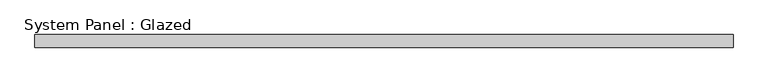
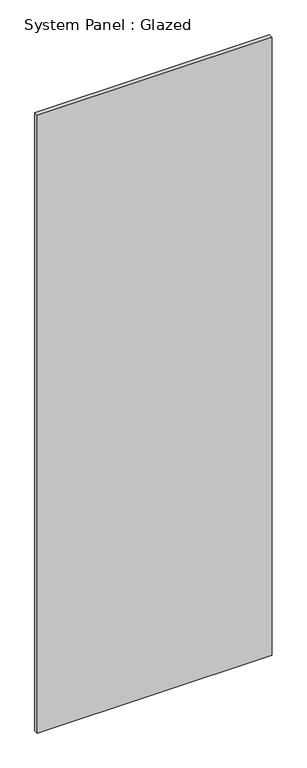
"""IFC4 building model written with IfcOpenShell, lengths in millimetres: plate geometry, System Panel : Glazed."""

from ifc_helpers import new_model, si_unit, origin, origin_with_axes, place, context, project, spatial, polyline, outline, extrude, source, transform, mapped, element, save


def system_panel_glazed_ed797616(model_context):
    return source(origin(), model_context, "Body", "SweptSolid", [
        extrude(outline(polyline([(669.4400388, -49.5), (-669.4400388, -49.5), (-669.4400388, -24.5), (669.4400388, -24.5), (669.4400388, -49.5)])), origin_with_axes(), (0.0, 0.0, 1.0), 3725.0),
    ])


if __name__ == "__main__":
    model = new_model("IFC4")
    model_context = context("Model", 3, world=origin())
    ifc_project = project(units=[si_unit("LENGTHUNIT", "METRE", prefix="MILLI")], contexts=[model_context])
    site = spatial("IfcSite", under=ifc_project)
    building = spatial("IfcBuilding", under=site)
    placement = place(None, origin())
    system_panel_glazed_shape = system_panel_glazed_ed797616(model_context)
    element("IfcPlate", 1, ObjectType="System Panel : Glazed", at=placement, inside=building, context=model_context, shape_type="MappedRepresentation", body=[
        mapped(system_panel_glazed_shape, transform((0.0, 0.0, 0.0), x_axis=(1.0, 0.0, 0.0), y_axis=(0.0, 1.0, 0.0), z_axis=(0.0, 0.0, 1.0))),
    ])
    save(model, "model.ifc")
